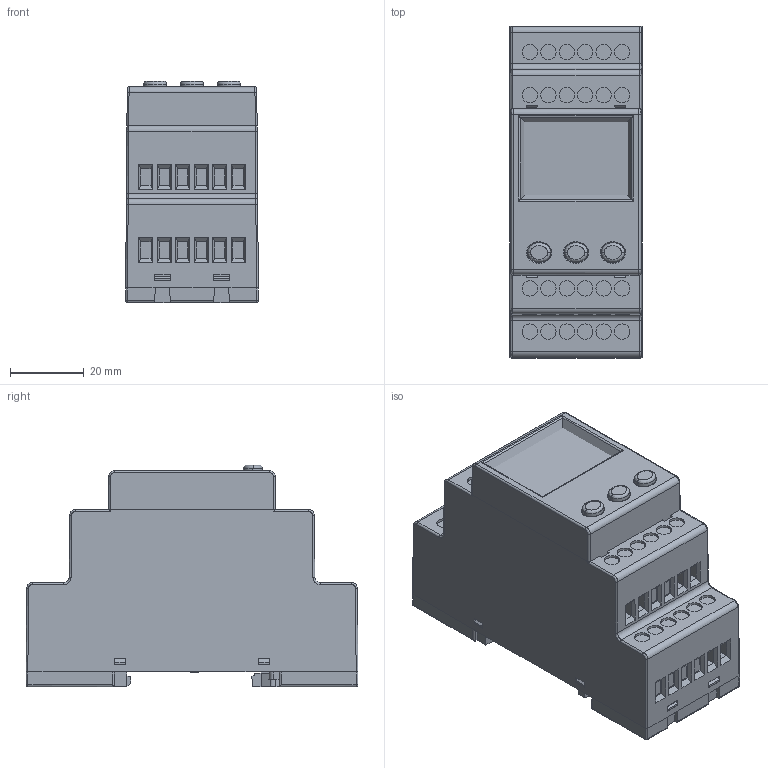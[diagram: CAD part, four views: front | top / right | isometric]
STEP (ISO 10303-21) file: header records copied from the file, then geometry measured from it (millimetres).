
FILE_DESCRIPTION (( 'STEP AP214' ), '1' );
FILE_NAME ('MRS.STEP', '2024-04-11T06:37:29', ( '' ), ( '' ), 'SwSTEP 2.0', 'SolidWorks 2022', '' );
FILE_SCHEMA (( 'AUTOMOTIVE_DESIGN' ));
Length unit declared in the file: millimetre
Products named in the file (1): MRS
Bounding box: 36 x 90 x 60 mm (x, y, z)
Volume: 132232.8 mm3; surface area: 35577.3 mm2
Topology: 1 solids, 5 shells, 1034 faces, 2714 edges, 1739 vertices
Faces by surface type: plane 748, bspline 132, cylinder 117, cone 27, torus 6, sphere 4
Entity records: 39548 total; most frequent: CARTESIAN_POINT 14849, ORIENTED_EDGE 5428, DIRECTION 4398, EDGE_CURVE 2714, LINE 2132, VECTOR 2132, VERTEX_POINT 1739, EDGE_LOOP 1137
